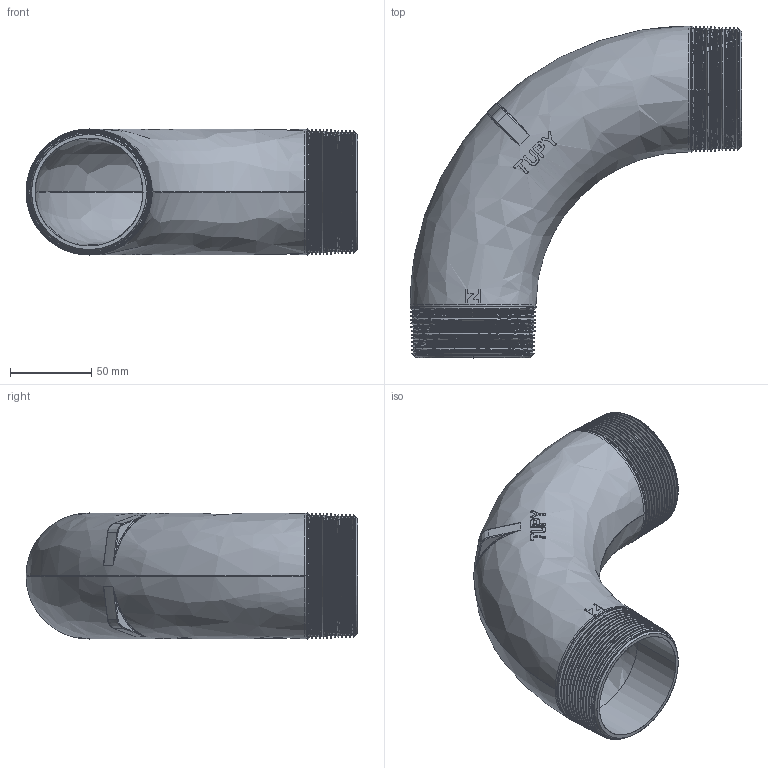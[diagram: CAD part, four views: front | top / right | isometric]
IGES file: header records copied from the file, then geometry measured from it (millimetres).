
Start section: SolidWorks IGES file using analytic representation for surfaces
Global section: file name: C:\Users\Joel Rosa\Desktop\Tubulação\12-25-OK\12-25-011.IGS; native system: SolidWorks 2011; preprocessor: SolidWorks 2011; author: Joel Rosa; date: 121207.021613; units: millimetre
Bounding box: 203.68 x 203.68 x 77.36 mm (x, y, z)
Surface area: 133942.7 mm2 (no closed solid volume)
Topology: 0 solids, 0 shells, 453 faces, 3939 edges, 3935 vertices
Faces by surface type: bspline 322, revolution 131
